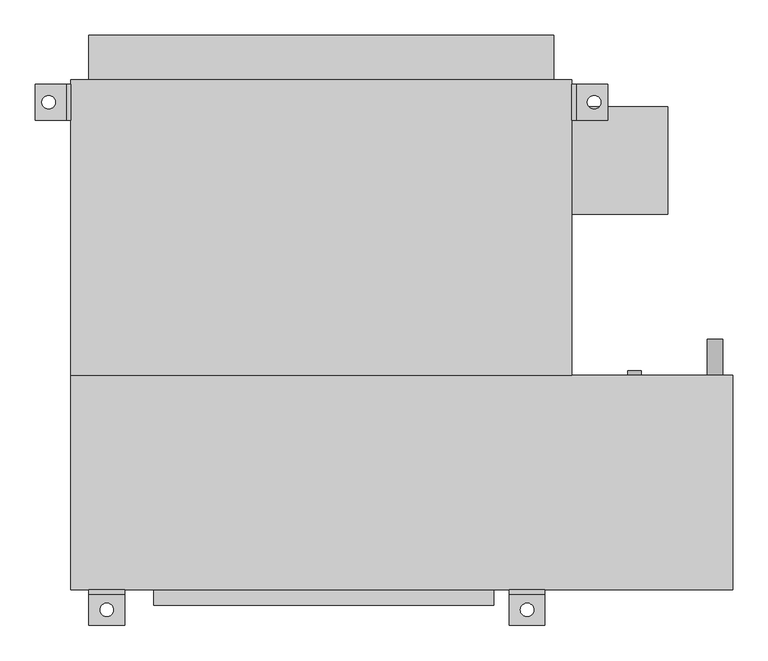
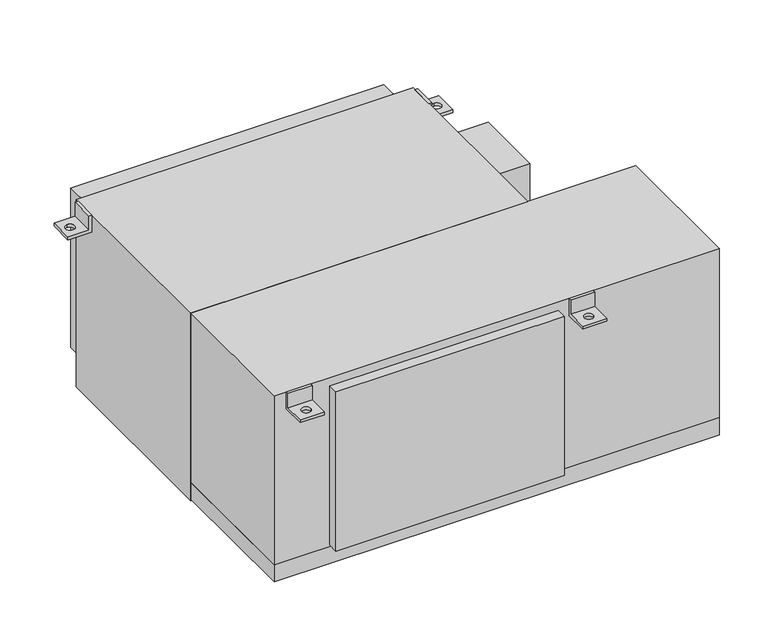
"""IFC4 building model written with IfcOpenShell, lengths in millimetres: proxy geometry, Concealed_High_Capacity_Horizontal_Fan_Coil_Unit_With_Plenum_-_42DCA_-_CARRIER_-_2-Pipe_Cool-EHeat_ValveEnclosure_RH_2022 : Size 08 - 277v/60Hz/1Ph - 6 Row 6.0kW."""

from ifc_helpers import new_model, si_unit, point, frame, frame_2d, origin, place, context, project, spatial, polyline, circle_curve, trimmed, segment, composite_curve, outline, extrude, source, transform, mapped, element, save
from ifc_brep_helpers import plane_surface, revolved_surface, advanced_brep


def mechanical_equipment_ea997f06(model_context):
    return source(origin(), model_context, "Body", "SolidModel", [
        advanced_brep(
        [(469.9, -390.525, 0.0), (469.9, -396.875, 0.0), (469.9, -396.875, -31.75), (469.9, -441.325, -31.75), (469.9, -441.325, -38.1), (469.9, -390.525, -38.1), (419.1, -390.525, 0.0), (419.1, -390.525, -38.1), (419.1, -441.325, -38.1), (419.1, -441.325, -31.75), (419.1, -396.875, -31.75), (419.1, -396.875, 0.0), (434.975, -419.1, -31.75), (454.025, -419.1, -31.75), (454.025, -419.1, -38.1), (434.975, -419.1, -38.1)],
        [
            (0, 1),
            (1, 2),
            (2, 3),
            (3, 4),
            (4, 5),
            (5, 0),
            (6, 7),
            (7, 8),
            (8, 9),
            (9, 10),
            (10, 11),
            (11, 6),
            (0, 6),
            (11, 1),
            (10, 2),
            (9, 3),
            (12, 13, circle_curve(frame((444.5, -419.1, -31.75), z_axis=(0.0, 0.0, -1.0), x_axis=(1.0, 0.0, 0.0)), 9.525)),
            (13, 12, circle_curve(frame((444.5, -419.1, -31.75), z_axis=(0.0, 0.0, -1.0), x_axis=(1.0, 0.0, 0.0)), 9.525)),
            (8, 4),
            (7, 5),
            (14, 15, circle_curve(frame((444.5, -419.1, -38.1), z_axis=(0.0, 0.0, 1.0), x_axis=(1.0, 0.0, 0.0)), 9.525)),
            (15, 14, circle_curve(frame((444.5, -419.1, -38.1), z_axis=(0.0, 0.0, 1.0), x_axis=(1.0, 0.0, 0.0)), 9.525)),
            (12, 15),
            (14, 13),
        ],
        [
            plane_surface(frame((469.9, -396.875, 0.0), z_axis=(1.0, 0.0, 0.0), x_axis=(0.0, -1.0, 0.0))),
            plane_surface(frame((419.1, -396.875, 0.0), z_axis=(-1.0, 0.0, 0.0), x_axis=(0.0, 1.0, 0.0))),
            plane_surface(frame((469.9, -390.525, 0.0), z_axis=(0.0, 0.0, 1.0), x_axis=(-1.0, 0.0, 0.0))),
            plane_surface(frame((469.9, -396.875, 0.0), z_axis=(0.0, -1.0, 0.0), x_axis=(-1.0, 0.0, 0.0))),
            plane_surface(frame((469.9, -396.875, -31.75), z_axis=(0.0, 0.0, 1.0), x_axis=(-1.0, 0.0, 0.0))),
            plane_surface(frame((469.9, -441.325, -31.75), z_axis=(0.0, -1.0, 0.0), x_axis=(-1.0, 0.0, 0.0))),
            plane_surface(frame((469.9, -441.325, -38.1), z_axis=(0.0, 0.0, -1.0), x_axis=(-1.0, 0.0, 0.0))),
            plane_surface(frame((469.9, -390.525, -38.1), z_axis=(0.0, 1.0, 0.0), x_axis=(-1.0, 0.0, 0.0))),
            revolved_surface(polyline([(454.025, -419.1, -38.1), (454.025, -419.1, -31.75)]), (444.5, -419.1, -31.75), (0.0, 0.0, -1.0)),
        ],
        [
            (0, [[1, 2, 3, 4, 5, 6]]),
            (1, [[7, 8, 9, 10, 11, 12]]),
            (2, [[-1, 13, -12, 14]]),
            (3, [[-2, -14, -11, 15]]),
            (4, [[-3, -15, -10, 16], [17, 18]]),
            (5, [[-4, -16, -9, 19]]),
            (6, [[-5, -19, -8, 20], [21, 22]]),
            (7, [[-6, -20, -7, -13]]),
            (8, [[23, -21, 24, -17]]),
            (8, [[-23, -18, -24, -22]]),
        ],
    ),
        advanced_brep(
        [(-127.0, -390.525, -38.1), (-127.0, -390.525, 0.0), (-127.0, -396.875, 0.0), (-127.0, -396.875, -31.75), (-127.0, -441.325, -31.75), (-127.0, -441.325, -38.1), (-177.8, -390.525, -38.1), (-177.8, -441.325, -38.1), (-177.8, -441.325, -31.75), (-177.8, -396.875, -31.75), (-177.8, -396.875, 0.0), (-177.8, -390.525, 0.0), (-161.925, -419.1, -31.75), (-142.875, -419.1, -31.75), (-142.875, -419.1, -38.1), (-161.925, -419.1, -38.1)],
        [
            (0, 1),
            (1, 2),
            (2, 3),
            (3, 4),
            (4, 5),
            (5, 0),
            (6, 7),
            (7, 8),
            (8, 9),
            (9, 10),
            (10, 11),
            (11, 6),
            (0, 6),
            (11, 1),
            (10, 2),
            (9, 3),
            (8, 4),
            (12, 13, circle_curve(frame((-152.4, -419.1, -31.75), z_axis=(0.0, 0.0, -1.0), x_axis=(1.0, 0.0, 0.0)), 9.525)),
            (13, 12, circle_curve(frame((-152.4, -419.1, -31.75), z_axis=(0.0, 0.0, -1.0), x_axis=(1.0, 0.0, 0.0)), 9.525)),
            (7, 5),
            (14, 15, circle_curve(frame((-152.4, -419.1, -38.1), z_axis=(0.0, 0.0, 1.0), x_axis=(1.0, 0.0, 0.0)), 9.525)),
            (15, 14, circle_curve(frame((-152.4, -419.1, -38.1), z_axis=(0.0, 0.0, 1.0), x_axis=(1.0, 0.0, 0.0)), 9.525)),
            (12, 15),
            (14, 13),
        ],
        [
            plane_surface(frame((-127.0, -390.525, -38.1), z_axis=(1.0, 0.0, 0.0), x_axis=(0.0, 0.0, 1.0))),
            plane_surface(frame((-177.8, -390.525, -38.1), z_axis=(-1.0, 0.0, 0.0), x_axis=(0.0, 0.0, -1.0))),
            plane_surface(frame((-127.0, -390.525, -38.1), z_axis=(0.0, 1.0, 0.0), x_axis=(-1.0, 0.0, 0.0))),
            plane_surface(frame((-127.0, -390.525, 0.0), z_axis=(0.0, 0.0, 1.0), x_axis=(-1.0, 0.0, 0.0))),
            plane_surface(frame((-127.0, -396.875, 0.0), z_axis=(0.0, -1.0, 0.0), x_axis=(-1.0, 0.0, 0.0))),
            plane_surface(frame((-127.0, -396.875, -31.75), z_axis=(0.0, 0.0, 1.0), x_axis=(-1.0, 0.0, 0.0))),
            plane_surface(frame((-127.0, -441.325, -31.75), z_axis=(0.0, -1.0, 0.0), x_axis=(-1.0, 0.0, 0.0))),
            plane_surface(frame((-127.0, -441.325, -38.1), z_axis=(0.0, 0.0, -1.0), x_axis=(-1.0, 0.0, 0.0))),
            revolved_surface(polyline([(-142.875, -419.1, -38.1), (-142.875, -419.1, -31.75)]), (-152.4, -419.1, -31.75), (0.0, 0.0, -1.0)),
        ],
        [
            (0, [[1, 2, 3, 4, 5, 6]]),
            (1, [[7, 8, 9, 10, 11, 12]]),
            (2, [[-1, 13, -12, 14]]),
            (3, [[-2, -14, -11, 15]]),
            (4, [[-3, -15, -10, 16]]),
            (5, [[-4, -16, -9, 17], [18, 19]]),
            (6, [[-5, -17, -8, 20]]),
            (7, [[-6, -20, -7, -13], [21, 22]]),
            (8, [[23, -21, 24, -18]]),
            (8, [[-23, -19, -24, -22]]),
        ],
    ),
        extrude(outline(composite_curve([segment(trimmed(circle_curve(frame_2d((-400.05, 711.2)), 11.1125), [point((-400.05, 700.0875))], [point((-400.05, 722.3125))], False, "CARTESIAN"), True, "CONTINUOUS"), segment(trimmed(circle_curve(frame_2d((-400.05, 711.2)), 11.1125), [point((-400.05, 722.3125))], [point((-400.05, 700.0875))], False, "CARTESIAN"), True, "CONTINUOUS")], self_intersect=False)), frame((0.0, -85.725, 0.0), z_axis=(0.0, 1.0, 0.0), x_axis=(0.0, 0.0, 1.0)), (0.0, 0.0, 1.0), 50.8),
        extrude(outline(composite_curve([segment(trimmed(circle_curve(frame_2d((-44.45, 596.9)), 9.525), [point((-44.45, 587.375))], [point((-44.45, 606.425))], False, "CARTESIAN"), True, "CONTINUOUS"), segment(trimmed(circle_curve(frame_2d((-44.45, 596.9)), 9.525), [point((-44.45, 606.425))], [point((-44.45, 587.375))], False, "CARTESIAN"), True, "CONTINUOUS")], self_intersect=False)), frame((0.0, -85.725, 0.0), z_axis=(0.0, 1.0, 0.0), x_axis=(0.0, 0.0, 1.0)), (0.0, 0.0, 1.0), 6.35),
        extrude(outline(composite_curve([segment(trimmed(circle_curve(frame_2d((-276.225, 596.9)), 9.525), [point((-276.225, 587.375))], [point((-276.225, 606.425))], False, "CARTESIAN"), True, "CONTINUOUS"), segment(trimmed(circle_curve(frame_2d((-276.225, 596.9)), 9.525), [point((-276.225, 606.425))], [point((-276.225, 587.375))], False, "CARTESIAN"), True, "CONTINUOUS")], self_intersect=False)), frame((0.0, -85.725, 0.0), z_axis=(0.0, 1.0, 0.0), x_axis=(0.0, 0.0, 1.0)), (0.0, 0.0, 1.0), 6.35),
        advanced_brep(
        [(-203.2, 327.025, -38.1), (-254.0, 327.025, -38.1), (-254.0, 327.025, -31.75), (-209.55, 327.025, -31.75), (-209.55, 327.025, 0.0), (-203.2, 327.025, 0.0), (-203.2, 276.225, -38.1), (-203.2, 276.225, 0.0), (-209.55, 276.225, 0.0), (-209.55, 276.225, -31.75), (-254.0, 276.225, -31.75), (-254.0, 276.225, -38.1), (-234.95, 292.1, -38.1), (-234.95, 311.15, -38.1), (-234.95, 311.15, -31.75), (-234.95, 292.1, -31.75)],
        [
            (0, 1),
            (1, 2),
            (2, 3),
            (3, 4),
            (4, 5),
            (5, 0),
            (6, 7),
            (7, 8),
            (8, 9),
            (9, 10),
            (10, 11),
            (11, 6),
            (0, 6),
            (11, 1),
            (12, 13, circle_curve(frame((-234.95, 301.625, -38.1), z_axis=(0.0, 0.0, 1.0), x_axis=(0.0, -1.0, 0.0)), 9.525)),
            (13, 12, circle_curve(frame((-234.95, 301.625, -38.1), z_axis=(0.0, 0.0, 1.0), x_axis=(0.0, -1.0, 0.0)), 9.525)),
            (10, 2),
            (9, 3),
            (14, 15, circle_curve(frame((-234.95, 301.625, -31.75), z_axis=(0.0, 0.0, -1.0), x_axis=(0.0, -1.0, 0.0)), 9.525)),
            (15, 14, circle_curve(frame((-234.95, 301.625, -31.75), z_axis=(0.0, 0.0, -1.0), x_axis=(0.0, -1.0, 0.0)), 9.525)),
            (8, 4),
            (7, 5),
            (14, 13),
            (12, 15),
        ],
        [
            plane_surface(frame((-203.2, 327.025, -38.1), z_axis=(0.0, 1.0, 0.0), x_axis=(-1.0, 0.0, 0.0))),
            plane_surface(frame((-203.2, 276.225, -38.1), z_axis=(0.0, -1.0, 0.0), x_axis=(1.0, 0.0, 0.0))),
            plane_surface(frame((-203.2, 327.025, -38.1), z_axis=(0.0, 0.0, -1.0), x_axis=(0.0, -1.0, 0.0))),
            plane_surface(frame((-254.0, 327.025, -38.1), z_axis=(-1.0, 0.0, 0.0), x_axis=(0.0, -1.0, 0.0))),
            plane_surface(frame((-254.0, 327.025, -31.75), z_axis=(0.0, 0.0, 1.0), x_axis=(0.0, -1.0, 0.0))),
            plane_surface(frame((-209.55, 327.025, -31.75), z_axis=(-1.0, 0.0, 0.0), x_axis=(0.0, -1.0, 0.0))),
            plane_surface(frame((-209.55, 327.025, 0.0), z_axis=(0.0, 0.0, 1.0), x_axis=(0.0, -1.0, 0.0))),
            plane_surface(frame((-203.2, 327.025, 0.0), z_axis=(1.0, 0.0, 0.0), x_axis=(0.0, -1.0, 0.0))),
            revolved_surface(polyline([(-234.95, 292.1, -38.1), (-234.95, 292.1, -31.75)]), (-234.95, 301.625, -31.75), (0.0, 0.0, -1.0)),
        ],
        [
            (0, [[1, 2, 3, 4, 5, 6]]),
            (1, [[7, 8, 9, 10, 11, 12]]),
            (2, [[-1, 13, -12, 14], [15, 16]]),
            (3, [[-2, -14, -11, 17]]),
            (4, [[-3, -17, -10, 18], [19, 20]]),
            (5, [[-4, -18, -9, 21]]),
            (6, [[-5, -21, -8, 22]]),
            (7, [[-6, -22, -7, -13]]),
            (8, [[23, -15, 24, -19]]),
            (8, [[-23, -20, -24, -16]]),
        ],
    ),
        advanced_brep(
        [(508.0, 327.025, -38.1), (508.0, 327.025, 0.0), (514.35, 327.025, 0.0), (514.35, 327.025, -31.75), (558.8, 327.025, -31.75), (558.8, 327.025, -38.1), (508.0, 276.225, -38.1), (558.8, 276.225, -38.1), (558.8, 276.225, -31.75), (514.35, 276.225, -31.75), (514.35, 276.225, 0.0), (508.0, 276.225, 0.0), (539.75, 311.15, -31.75), (539.75, 292.1, -31.75), (539.75, 292.1, -38.1), (539.75, 311.15, -38.1)],
        [
            (0, 1),
            (1, 2),
            (2, 3),
            (3, 4),
            (4, 5),
            (5, 0),
            (6, 7),
            (7, 8),
            (8, 9),
            (9, 10),
            (10, 11),
            (11, 6),
            (0, 6),
            (11, 1),
            (10, 2),
            (9, 3),
            (8, 4),
            (12, 13, circle_curve(frame((539.75, 301.625, -31.75), z_axis=(0.0, 0.0, -1.0), x_axis=(0.0, -1.0, 0.0)), 9.525)),
            (13, 12, circle_curve(frame((539.75, 301.625, -31.75), z_axis=(0.0, 0.0, -1.0), x_axis=(0.0, -1.0, 0.0)), 9.525)),
            (7, 5),
            (14, 15, circle_curve(frame((539.75, 301.625, -38.1), z_axis=(0.0, 0.0, 1.0), x_axis=(0.0, -1.0, 0.0)), 9.525)),
            (15, 14, circle_curve(frame((539.75, 301.625, -38.1), z_axis=(0.0, 0.0, 1.0), x_axis=(0.0, -1.0, 0.0)), 9.525)),
            (12, 15),
            (14, 13),
        ],
        [
            plane_surface(frame((-203.2, 327.025, -38.1), z_axis=(0.0, 1.0, 0.0), x_axis=(-1.0, 0.0, 0.0))),
            plane_surface(frame((-203.2, 276.225, -38.1), z_axis=(0.0, -1.0, 0.0), x_axis=(1.0, 0.0, 0.0))),
            plane_surface(frame((508.0, 327.025, -38.1), z_axis=(-1.0, 0.0, 0.0), x_axis=(0.0, -1.0, 0.0))),
            plane_surface(frame((508.0, 327.025, 0.0), z_axis=(0.0, 0.0, 1.0), x_axis=(0.0, -1.0, 0.0))),
            plane_surface(frame((514.35, 327.025, 0.0), z_axis=(1.0, 0.0, 0.0), x_axis=(0.0, -1.0, 0.0))),
            plane_surface(frame((514.35, 327.025, -31.75), z_axis=(0.0, 0.0, 1.0), x_axis=(0.0, -1.0, 0.0))),
            plane_surface(frame((558.8, 327.025, -31.75), z_axis=(1.0, 0.0, 0.0), x_axis=(0.0, -1.0, 0.0))),
            plane_surface(frame((558.8, 327.025, -38.1), z_axis=(0.0, 0.0, -1.0), x_axis=(0.0, -1.0, 0.0))),
            revolved_surface(polyline([(539.75, 292.1, -38.1), (539.75, 292.1, -31.75)]), (539.75, 301.625, -31.75), (0.0, 0.0, -1.0)),
        ],
        [
            (0, [[1, 2, 3, 4, 5, 6]]),
            (1, [[7, 8, 9, 10, 11, 12]]),
            (2, [[-1, 13, -12, 14]]),
            (3, [[-2, -14, -11, 15]]),
            (4, [[-3, -15, -10, 16]]),
            (5, [[-4, -16, -9, 17], [18, 19]]),
            (6, [[-5, -17, -8, 20]]),
            (7, [[-6, -20, -7, -13], [21, 22]]),
            (8, [[23, -21, 24, -18]]),
            (8, [[-23, -19, -24, -22]]),
        ],
    ),
        extrude(outline(polyline([(-177.8, 396.875), (482.6, 396.875), (482.6, 333.375), (-177.8, 333.375), (-177.8, 396.875)])), frame((0.0, 0.0, -377.825), z_axis=(0.0, 0.0, 1.0), x_axis=(1.0, 0.0, 0.0)), (0.0, 0.0, 1.0), 355.6),
        extrude(outline(polyline([(644.525, 295.275), (644.525, 142.875), (508.0, 142.875), (508.0, 295.275), (644.525, 295.275)])), frame((0.0, 0.0, -254.0), z_axis=(0.0, 0.0, 1.0), x_axis=(1.0, 0.0, 0.0)), (0.0, 0.0, 1.0), 152.4),
        extrude(outline(polyline([(396.875, -412.75), (-85.725, -412.75), (-85.725, -390.525), (396.875, -390.525), (396.875, -412.75)])), frame((0.0, 0.0, -374.65), z_axis=(0.0, 0.0, 1.0), x_axis=(1.0, 0.0, 0.0)), (0.0, 0.0, 1.0), 355.6),
        extrude(outline(polyline([(508.0, -85.725), (-203.2, -85.725), (-203.2, 333.375), (508.0, 333.375), (508.0, -85.725)])), frame((0.0, 0.0, -419.1), z_axis=(0.0, 0.0, 1.0), x_axis=(1.0, 0.0, 0.0)), (0.0, 0.0, 1.0), 419.1),
        extrude(outline(polyline([(736.6, -85.725), (736.6, -390.525), (-203.2, -390.525), (-203.2, -85.725), (736.6, -85.725)])), frame((0.0, 0.0, -377.825), z_axis=(0.0, 0.0, 1.0), x_axis=(1.0, 0.0, 0.0)), (0.0, 0.0, 1.0), 377.825),
        extrude(outline(polyline([(736.6, -85.725), (736.6, -390.525), (-203.2, -390.525), (-203.2, -85.725), (736.6, -85.725)])), frame((0.0, 0.0, -415.925), z_axis=(0.0, 0.0, 1.0), x_axis=(1.0, 0.0, 0.0)), (0.0, 0.0, 1.0), 38.1),
    ])


if __name__ == "__main__":
    model = new_model("IFC4")
    model_context = context("Model", 3, world=origin())
    ifc_project = project(units=[si_unit("LENGTHUNIT", "METRE", prefix="MILLI")], contexts=[model_context])
    site = spatial("IfcSite", under=ifc_project)
    building = spatial("IfcBuilding", under=site)
    placement = place(None, origin())
    mechanical_equipment_shape = mechanical_equipment_ea997f06(model_context)
    element("IfcBuildingElementProxy", 1, Name="Concealed_High_Capacity_Horizontal_Fan_Coil_Unit_With_Plenum_-_42DCA_-_CARRIER_-_2-Pipe_Cool-EHeat_ValveEnclosure_RH_2022 : Size 08 - 277v/60Hz/1Ph - 6 Row 6.0kW", ObjectType="Concealed_High_Capacity_Horizontal_Fan_Coil_Unit_With_Plenum_-_42DCA_-_CARRIER_-_2-Pipe_Cool-EHeat_ValveEnclosure_RH_2022 : Size 08 - 277v/60Hz/1Ph - 6 Row 6.0kW", at=placement, inside=building, context=model_context, shape_type="MappedRepresentation", body=[
        mapped(mechanical_equipment_shape, transform((0.0, 0.0, 0.0), x_axis=(1.0, 0.0, 0.0), y_axis=(0.0, 1.0, 0.0), z_axis=(0.0, 0.0, 1.0))),
    ])
    save(model, "model.ifc")
